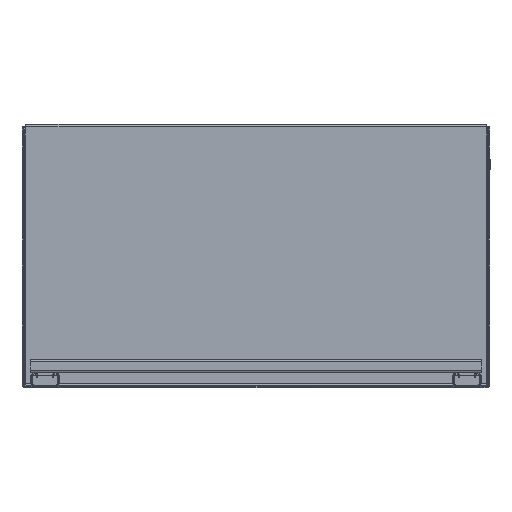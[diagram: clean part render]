
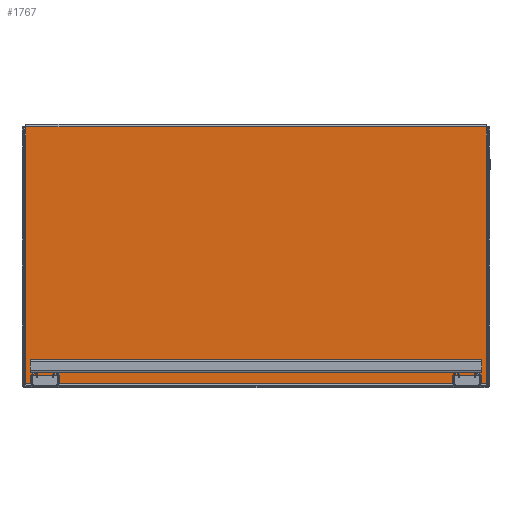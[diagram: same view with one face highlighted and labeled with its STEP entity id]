
A CAD part, front view. The second image highlights one B-rep face of the part: STEP entity #1767.
In plain terms, the highlighted planar face has unit normal (0, -1, 0).
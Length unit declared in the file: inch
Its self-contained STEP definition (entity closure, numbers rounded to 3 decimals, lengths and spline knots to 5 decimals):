
#1047 = FACE_OUTER_BOUND ( 'NONE', #2144, .T. ) ;
#1089 = VECTOR ( 'NONE', #6958, 39.37008 ) ;
#1148 = LINE ( 'NONE', #6941, #1089 ) ;
#1569 = EDGE_CURVE ( 'NONE', #6744, #6682, #1148, .T. ) ;
#1767 = ADVANCED_FACE ( 'NONE', ( #1047 ), #7162, .T. ) ;
#2144 = EDGE_LOOP ( 'NONE', ( #2267, #2271, #2250, #2245 ) ) ;
#2245 = ORIENTED_EDGE ( 'NONE', *, *, #3214, .F. ) ;
#2250 = ORIENTED_EDGE ( 'NONE', *, *, #3229, .F. ) ;
#2267 = ORIENTED_EDGE ( 'NONE', *, *, #3213, .F. ) ;
#2271 = ORIENTED_EDGE ( 'NONE', *, *, #1569, .T. ) ;
#2568 = DIRECTION ( 'NONE',  ( 0., 0., 1. ) ) ;
#2704 = CARTESIAN_POINT ( 'NONE',  ( -13.76893, 0.428, 15.52693 ) ) ;
#2714 = DIRECTION ( 'NONE',  ( 0., 0., -1. ) ) ;
#2897 = CARTESIAN_POINT ( 'NONE',  ( 13.76893, 0.428, 0.08 ) ) ;
#2905 = CARTESIAN_POINT ( 'NONE',  ( 13.76893, 0.428, 0. ) ) ;
#3017 = DIRECTION ( 'NONE',  ( -1., 0., 0. ) ) ;
#3213 = EDGE_CURVE ( 'NONE', #6744, #6678, #8318, .T. ) ;
#3214 = EDGE_CURVE ( 'NONE', #6678, #6640, #8316, .T. ) ;
#3229 = EDGE_CURVE ( 'NONE', #6640, #6682, #8291, .T. ) ;
#3810 = AXIS2_PLACEMENT_3D ( 'NONE', #7163, #7152, #7149 ) ;
#5354 = CARTESIAN_POINT ( 'NONE',  ( -13.76893, 0.428, 0.08 ) ) ;
#5393 = CARTESIAN_POINT ( 'NONE',  ( 13.76893, 0.428, 0.08 ) ) ;
#5397 = CARTESIAN_POINT ( 'NONE',  ( -13.76893, 0.428, 15.44693 ) ) ;
#5462 = CARTESIAN_POINT ( 'NONE',  ( 13.76893, 0.428, 15.44693 ) ) ;
#6640 = VERTEX_POINT ( 'NONE', #5354 ) ;
#6678 = VERTEX_POINT ( 'NONE', #5393 ) ;
#6682 = VERTEX_POINT ( 'NONE', #5397 ) ;
#6744 = VERTEX_POINT ( 'NONE', #5462 ) ;
#6941 = CARTESIAN_POINT ( 'NONE',  ( 13.76893, 0.428, 15.44693 ) ) ;
#6958 = DIRECTION ( 'NONE',  ( -1., 0., 0. ) ) ;
#7149 = DIRECTION ( 'NONE',  ( 0., 0., -1. ) ) ;
#7152 = DIRECTION ( 'NONE',  ( 0., -1., 0. ) ) ;
#7162 = PLANE ( 'NONE',  #3810 ) ;
#7163 = CARTESIAN_POINT ( 'NONE',  ( 13.76893, 0.428, 15.52693 ) ) ;
#8289 = VECTOR ( 'NONE', #2568, 39.37008 ) ;
#8291 = LINE ( 'NONE', #2704, #8289 ) ;
#8315 = VECTOR ( 'NONE', #3017, 39.37008 ) ;
#8316 = LINE ( 'NONE', #2897, #8315 ) ;
#8318 = LINE ( 'NONE', #2905, #8323 ) ;
#8323 = VECTOR ( 'NONE', #2714, 39.37008 ) ;
